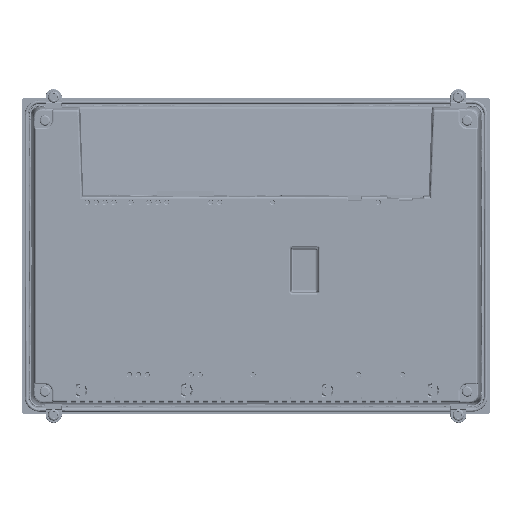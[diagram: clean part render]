
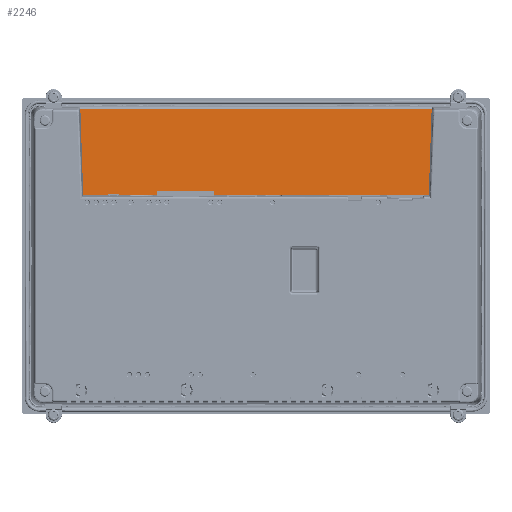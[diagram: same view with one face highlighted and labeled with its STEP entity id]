
A CAD part, front view. The second image highlights one B-rep face of the part: STEP entity #2246.
In plain terms, the highlighted planar face has unit normal (0, -0.999, 0.052).
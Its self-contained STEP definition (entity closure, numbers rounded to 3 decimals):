
#2246=ADVANCED_FACE('',(#6271),#67738,.T.);
#6271=FACE_OUTER_BOUND('',#10534,.T.);
#10534=EDGE_LOOP('',(#22412,#22413,#22414,#22415,#22416,#22417,#22418,#22419,
#22420,#22421,#22422,#22423,#22424,#22425));
#22412=ORIENTED_EDGE('',*,*,#40550,.T.);
#22413=ORIENTED_EDGE('',*,*,#36833,.T.);
#22414=ORIENTED_EDGE('',*,*,#40559,.T.);
#22415=ORIENTED_EDGE('',*,*,#40558,.T.);
#22416=ORIENTED_EDGE('',*,*,#40557,.T.);
#22417=ORIENTED_EDGE('',*,*,#36843,.T.);
#22418=ORIENTED_EDGE('',*,*,#40549,.T.);
#22419=ORIENTED_EDGE('',*,*,#40556,.T.);
#22420=ORIENTED_EDGE('',*,*,#40555,.T.);
#22421=ORIENTED_EDGE('',*,*,#40554,.T.);
#22422=ORIENTED_EDGE('',*,*,#40553,.T.);
#22423=ORIENTED_EDGE('',*,*,#36829,.T.);
#22424=ORIENTED_EDGE('',*,*,#40552,.T.);
#22425=ORIENTED_EDGE('',*,*,#40551,.T.);
#36829=EDGE_CURVE('',#59237,#59238,#49417,.T.);
#36833=EDGE_CURVE('',#59241,#59242,#49421,.T.);
#36843=EDGE_CURVE('',#59251,#59252,#49431,.T.);
#40549=EDGE_CURVE('',#59252,#61693,#52822,.T.);
#40550=EDGE_CURVE('',#61696,#59241,#52823,.T.);
#40551=EDGE_CURVE('',#61697,#61696,#52824,.T.);
#40552=EDGE_CURVE('',#59238,#61697,#52825,.T.);
#40553=EDGE_CURVE('',#61698,#59237,#52826,.T.);
#40554=EDGE_CURVE('',#61699,#61698,#52827,.T.);
#40555=EDGE_CURVE('',#61700,#61699,#52828,.T.);
#40556=EDGE_CURVE('',#61693,#61700,#52829,.T.);
#40557=EDGE_CURVE('',#61701,#59251,#52830,.T.);
#40558=EDGE_CURVE('',#61702,#61701,#52831,.T.);
#40559=EDGE_CURVE('',#59242,#61702,#52832,.T.);
#49417=B_SPLINE_CURVE_WITH_KNOTS('',1,(#96720,#96721),.UNSPECIFIED.,.F.,
 .F.,(2,2),(0.,14.28),.UNSPECIFIED.);
#49421=B_SPLINE_CURVE_WITH_KNOTS('',1,(#96771,#96772),.UNSPECIFIED.,.F.,
 .F.,(2,2),(0.,21.83),.UNSPECIFIED.);
#49431=B_SPLINE_CURVE_WITH_KNOTS('',1,(#96807,#96808),.UNSPECIFIED.,.F.,
 .F.,(2,2),(0.,121.96),.UNSPECIFIED.);
#52822=B_SPLINE_CURVE_WITH_KNOTS('',1,(#107085,#107086),.UNSPECIFIED.,.F.,
 .F.,(2,2),(0.,49.16),.UNSPECIFIED.);
#52823=B_SPLINE_CURVE_WITH_KNOTS('',1,(#107087,#107088),.UNSPECIFIED.,.F.,
 .F.,(2,2),(-0.418,0.),.UNSPECIFIED.);
#52824=B_SPLINE_CURVE_WITH_KNOTS('',1,(#107089,#107090),.UNSPECIFIED.,.F.,
 .F.,(2,2),(-5.851,0.),.UNSPECIFIED.);
#52825=B_SPLINE_CURVE_WITH_KNOTS('',1,(#107091,#107092),.UNSPECIFIED.,.F.,
 .F.,(2,2),(-0.418,0.),.UNSPECIFIED.);
#52826=B_SPLINE_CURVE_WITH_KNOTS('',1,(#107093,#107094),.UNSPECIFIED.,.F.,
 .F.,(2,2),(-49.16,0.),.UNSPECIFIED.);
#52827=B_SPLINE_CURVE_WITH_KNOTS('',3,(#107095,#107096,#107097,#107098),
 .UNSPECIFIED.,.F.,.F.,(4,4),(-0.051,0.),.UNSPECIFIED.);
#52828=B_SPLINE_CURVE_WITH_KNOTS('',1,(#107099,#107100),.UNSPECIFIED.,.F.,
 .F.,(2,2),(-199.665,0.),.UNSPECIFIED.);
#52829=B_SPLINE_CURVE_WITH_KNOTS('',3,(#107101,#107102,#107103,#107104),
 .UNSPECIFIED.,.F.,.F.,(4,4),(-0.051,0.),.UNSPECIFIED.);
#52830=B_SPLINE_CURVE_WITH_KNOTS('',1,(#107105,#107106),.UNSPECIFIED.,.F.,
 .F.,(2,2),(-2.524,0.),.UNSPECIFIED.);
#52831=B_SPLINE_CURVE_WITH_KNOTS('',1,(#107107,#107108),.UNSPECIFIED.,.F.,
 .F.,(2,2),(-32.49,0.),.UNSPECIFIED.);
#52832=B_SPLINE_CURVE_WITH_KNOTS('',1,(#107109,#107110),.UNSPECIFIED.,.F.,
 .F.,(2,2),(-2.524,0.),.UNSPECIFIED.);
#59237=VERTEX_POINT('',#90767);
#59238=VERTEX_POINT('',#90768);
#59241=VERTEX_POINT('',#90771);
#59242=VERTEX_POINT('',#90772);
#59251=VERTEX_POINT('',#90781);
#59252=VERTEX_POINT('',#90782);
#61693=VERTEX_POINT('',#93223);
#61696=VERTEX_POINT('',#93226);
#61697=VERTEX_POINT('',#93227);
#61698=VERTEX_POINT('',#93228);
#61699=VERTEX_POINT('',#93229);
#61700=VERTEX_POINT('',#93230);
#61701=VERTEX_POINT('',#93231);
#61702=VERTEX_POINT('',#93232);
#67738=PLANE('',#70572);
#70572=AXIS2_PLACEMENT_3D('',#83221,#73080,$);
#73080=DIRECTION('',(0.,-0.999,0.052));
#83221=CARTESIAN_POINT('',(-120.082,11.585,29.374));
#90767=CARTESIAN_POINT('',(-98.205,11.858,34.583));
#90768=CARTESIAN_POINT('',(-83.925,11.858,34.583));
#90771=CARTESIAN_POINT('',(-78.075,11.858,34.583));
#90772=CARTESIAN_POINT('',(-56.245,11.858,34.583));
#90781=CARTESIAN_POINT('',(-23.755,11.858,34.583));
#90782=CARTESIAN_POINT('',(98.205,11.858,34.583));
#93223=CARTESIAN_POINT('',(99.83,14.429,83.649));
#93226=CARTESIAN_POINT('',(-78.074,11.88,35.));
#93227=CARTESIAN_POINT('',(-83.926,11.88,35.));
#93228=CARTESIAN_POINT('',(-99.83,14.429,83.649));
#93229=CARTESIAN_POINT('',(-99.833,14.432,83.7));
#93230=CARTESIAN_POINT('',(99.833,14.432,83.7));
#93231=CARTESIAN_POINT('',(-23.755,11.99,37.103));
#93232=CARTESIAN_POINT('',(-56.245,11.99,37.103));
#96720=CARTESIAN_POINT('',(-98.205,11.858,34.583));
#96721=CARTESIAN_POINT('',(-83.925,11.858,34.583));
#96771=CARTESIAN_POINT('',(-78.075,11.858,34.583));
#96772=CARTESIAN_POINT('',(-56.245,11.858,34.583));
#96807=CARTESIAN_POINT('',(-23.755,11.858,34.583));
#96808=CARTESIAN_POINT('',(98.205,11.858,34.583));
#107085=CARTESIAN_POINT('',(98.205,11.858,34.583));
#107086=CARTESIAN_POINT('',(99.83,14.429,83.649));
#107087=CARTESIAN_POINT('',(-78.074,11.88,35.));
#107088=CARTESIAN_POINT('',(-78.075,11.858,34.583));
#107089=CARTESIAN_POINT('',(-83.926,11.88,35.));
#107090=CARTESIAN_POINT('',(-78.074,11.88,35.));
#107091=CARTESIAN_POINT('',(-83.925,11.858,34.583));
#107092=CARTESIAN_POINT('',(-83.926,11.88,35.));
#107093=CARTESIAN_POINT('',(-99.83,14.429,83.649));
#107094=CARTESIAN_POINT('',(-98.205,11.858,34.583));
#107095=CARTESIAN_POINT('',(-99.833,14.432,83.7));
#107096=CARTESIAN_POINT('',(-99.831,14.431,83.683));
#107097=CARTESIAN_POINT('',(-99.83,14.43,83.666));
#107098=CARTESIAN_POINT('',(-99.83,14.429,83.649));
#107099=CARTESIAN_POINT('',(99.833,14.432,83.7));
#107100=CARTESIAN_POINT('',(-99.833,14.432,83.7));
#107101=CARTESIAN_POINT('',(99.83,14.429,83.649));
#107102=CARTESIAN_POINT('',(99.83,14.43,83.666));
#107103=CARTESIAN_POINT('',(99.831,14.431,83.683));
#107104=CARTESIAN_POINT('',(99.833,14.432,83.7));
#107105=CARTESIAN_POINT('',(-23.755,11.99,37.103));
#107106=CARTESIAN_POINT('',(-23.755,11.858,34.583));
#107107=CARTESIAN_POINT('',(-56.245,11.99,37.103));
#107108=CARTESIAN_POINT('',(-23.755,11.99,37.103));
#107109=CARTESIAN_POINT('',(-56.245,11.858,34.583));
#107110=CARTESIAN_POINT('',(-56.245,11.99,37.103));
